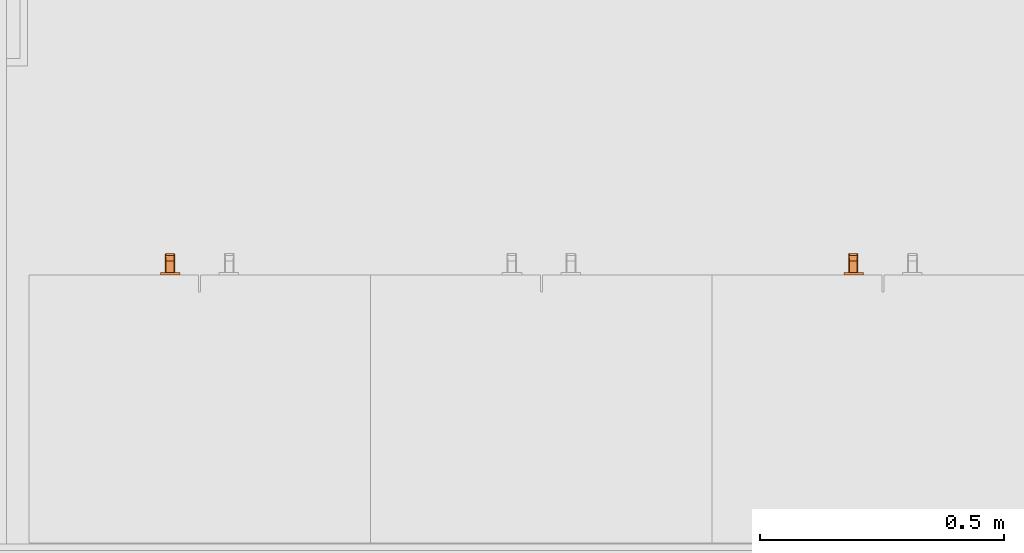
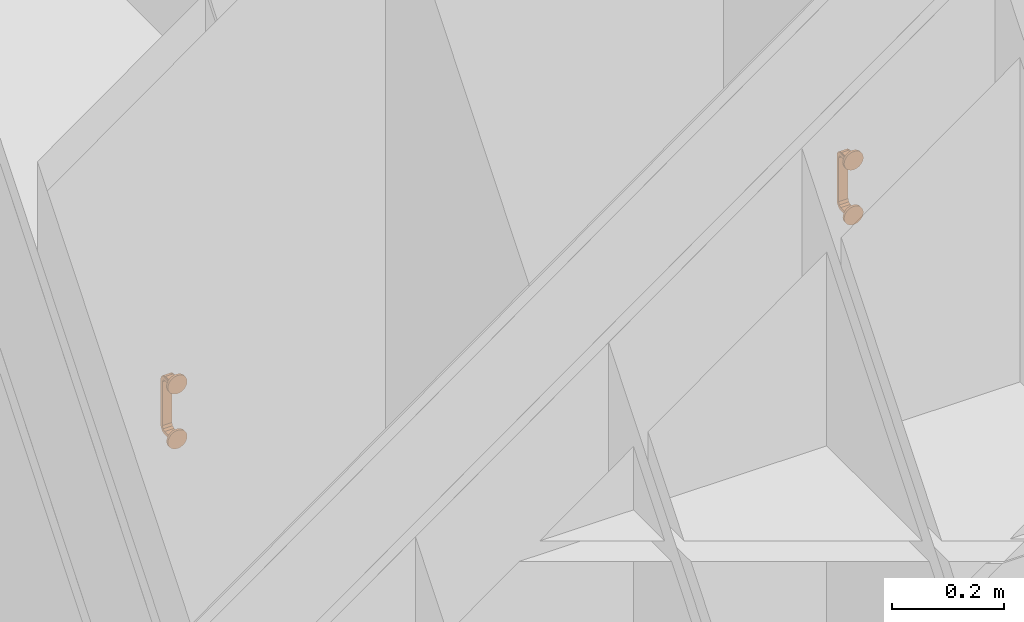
# One storey, part 40 of 67: 2 proxies.
"""IFC4 building model written with IfcOpenShell, lengths in millimetres."""

from ifc_helpers import new_model, entity, si_unit, converted_unit, direction, frame, origin, place, context, subcontext, project, spatial, polygons, source, transform, mapped, material, type_object, type_shapes, element, save


model = new_model("IFC4")

# Units and contexts
model_context = context("Model", 3, precision=0.01, world=origin(), true_north=direction((0.0, 1.0)))
body_context = subcontext(model_context, "Body", "Model", "MODEL_VIEW")
ifc_project = project(units=[si_unit("LENGTHUNIT", "METRE", prefix="MILLI"), si_unit("AREAUNIT", "SQUARE_METRE"), si_unit("VOLUMEUNIT", "CUBIC_METRE"), converted_unit("PLANEANGLEUNIT", "DEGREE", entity("IfcPlaneAngleMeasure", 0.017453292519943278), si_unit("PLANEANGLEUNIT", "RADIAN"), dimensions=[0, 0, 0, 0, 0, 0, 0])], contexts=[model_context])

# Site, building, storey, space
site_placement = place(None, origin())
site = spatial("IfcSite", under=ifc_project, at=site_placement, Name="Tomtens navn", CompositionType="ELEMENT")
building_placement = place(site_placement, origin())
building = spatial("IfcBuilding", under=site, at=building_placement, Name="Byggets navn", CompositionType="ELEMENT")
storey_placement = place(building_placement, origin())
storey = spatial("IfcBuildingStorey", under=building, at=storey_placement, Name="Level 01", CompositionType="ELEMENT", Elevation=2.1993652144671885e-25)
space_placement = place(storey_placement, origin())
space = spatial("IfcSpace", under=storey, at=space_placement, Name="102", CompositionType="ELEMENT", PredefinedType="NOTDEFINED")

# Proxies
ifc_material = material(Name="Handtag, vitt", Category="Unassigned")
building_element_proxy_type = type_object("IfcBuildingElementProxyType", Name="Handtag skåp1:Handtag skåp", PredefinedType="NOTDEFINED", material=ifc_material)
shared_shape = source(origin(), body_context, "Body", "Tessellation", [
    polygons([(8.670220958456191, -4.999999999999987, 4.021099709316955), (10.084434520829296, -4.9999999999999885, 3.435313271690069), (10.67022095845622, -4.999999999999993, 2.021099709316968), (10.67022095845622, -5.0000000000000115, -4.0210997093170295), (-9.32977904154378, -5.0000000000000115, -4.0210997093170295), (-9.32977904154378, -4.999999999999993, 2.021099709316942), (-8.743992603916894, -4.9999999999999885, 3.435313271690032), (-7.32977904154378, -4.999999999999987, 4.021099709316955), (8.670220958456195, -28.00000000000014, 4.0210997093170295), (10.084434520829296, -28.000000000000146, 3.435313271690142), (10.67022095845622, -28.00000000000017, 2.021099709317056), (8.670220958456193, -15.654960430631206, 4.02109970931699), (10.67022095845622, -17.34503987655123, 2.021099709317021), (10.08659387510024, -16.21238630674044, 3.433150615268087), (10.67022095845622, -37.914414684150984, -2.085585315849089), (10.67022095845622, -42.02109970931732, -11.999999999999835), (10.67022095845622, -42.02109970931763, -107.99999999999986), (10.67022095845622, -37.914414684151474, -117.91441468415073), (10.67022095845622, -28.00000000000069, -122.02109970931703), (10.67022095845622, -4.999999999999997, -122.02109970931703), (10.67022095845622, -4.999999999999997, -115.97890029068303), (10.67022095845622, -28.000000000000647, -115.97890029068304), (10.67022095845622, -33.641934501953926, -113.64193450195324), (10.67022095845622, -35.978900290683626, -107.99999999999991), (10.67022095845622, -35.978900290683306, -11.999999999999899), (10.67022095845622, -33.64193450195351, -6.358065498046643), (10.67022095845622, -28.000000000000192, -4.021099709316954), (-9.32977904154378, -28.000000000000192, -4.021099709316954), (-9.32977904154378, -33.64193450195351, -6.358065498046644), (-9.32977904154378, -35.97890029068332, -11.999999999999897), (-9.32977904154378, -35.97890029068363, -107.99999999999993), (-9.32977904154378, -33.641934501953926, -113.64193450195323), (-9.32977904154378, -28.000000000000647, -115.978900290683), (-9.32977904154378, -4.999999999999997, -115.978900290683), (-9.32977904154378, -4.999999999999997, -122.02109970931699), (-9.32977904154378, -28.00000000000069, -122.02109970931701), (-9.32977904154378, -37.91441468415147, -117.91441468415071), (-9.32977904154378, -42.0210997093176, -107.9999999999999), (-9.32977904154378, -42.02109970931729, -11.99999999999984), (-9.32977904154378, -37.91441468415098, -2.085585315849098), (-9.32977904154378, -28.000000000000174, 2.0210997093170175), (-8.743992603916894, -28.000000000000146, 3.435313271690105), (-7.329779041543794, -28.000000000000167, 4.0210997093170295), (-9.32977904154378, -15.654960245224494, 2.0210997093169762), (-7.3297790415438, -17.3450402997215, 4.021099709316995), (-8.741829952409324, -16.212386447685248, 3.4374726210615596), (8.670220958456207, -39.328628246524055, -0.6713717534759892), (8.670220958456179, -44.021099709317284, -11.999999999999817), (10.084434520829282, -43.43531327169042, -11.999999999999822), (10.67022095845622, -31.601265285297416, 0.5294067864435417), (8.670220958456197, -41.037713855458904, -4.797469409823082), (10.084434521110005, -40.40873190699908, -2.820007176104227), (8.670220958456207, -35.20253058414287, 1.0377138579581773), (9.809043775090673, -37.34144424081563, 0.5752165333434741), (9.818751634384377, -32.92350079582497, 2.8642465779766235), (10.67022095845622, -39.96775719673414, -7.042792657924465), (10.377327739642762, -28.000000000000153, 2.7282064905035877), (8.670220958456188, -42.529406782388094, -8.398734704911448), (9.779150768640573, -42.65191997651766, -6.400304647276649), (10.431420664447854, -34.75591670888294, 1.3575143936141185), (10.447049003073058, -37.641402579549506, -0.5884869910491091), (10.67022095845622, -34.7578399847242, -0.7780892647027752), (10.453824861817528, -31.5292743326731, 2.5026982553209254), (8.670220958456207, -31.601265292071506, 2.5294067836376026), (8.670220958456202, -40.18317105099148, -2.7344205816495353), (9.435587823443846, -40.00295364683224, -1.6197407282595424), (9.543801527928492, -41.59747716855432, -3.9137042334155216), (10.67022095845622, -38.941085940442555, -4.564188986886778), (10.502246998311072, -40.95405539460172, -4.794062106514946), (10.477567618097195, -42.45420227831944, -8.476170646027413), (9.193272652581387, -43.80444460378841, -11.999999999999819), (9.638611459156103, -43.53877057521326, -9.303396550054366), (10.67022095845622, -40.99442845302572, -9.521396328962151), (-7.329779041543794, -44.021099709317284, -11.999999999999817), (-7.329779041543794, -39.328628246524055, -0.6713717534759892), (-8.743992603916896, -43.43531327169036, -11.999999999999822), (-7.329779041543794, -35.20253057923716, 1.0377138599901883), (-8.743992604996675, -37.179992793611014, 0.40873192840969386), (-9.32977904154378, -40.52940677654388, -8.39873469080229), (-7.329779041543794, -41.03771385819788, -4.7974694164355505), (-8.468601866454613, -40.57521654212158, -2.658555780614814), (-8.478309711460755, -42.86424658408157, -7.076499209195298), (-9.32977904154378, -32.95720734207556, -0.03224280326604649), (-9.036885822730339, -42.72820649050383, -11.999999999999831), (-7.329779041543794, -31.601265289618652, 2.529406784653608), (-8.43870885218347, -33.59969531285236, 2.6519199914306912), (-9.090978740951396, -41.35751443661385, -5.244083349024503), (-9.106607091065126, -39.41151304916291, -2.3585974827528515), (-9.32977904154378, -39.221910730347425, -5.242160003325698), (-9.11338295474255, -42.50269824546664, -8.470725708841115), (-7.329779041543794, -42.52940678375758, -8.398734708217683), (-7.329779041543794, -37.26557941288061, 0.18317105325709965), (-8.095145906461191, -36.54048464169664, 1.37463273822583), (-8.182791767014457, -38.855367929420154, -0.47819170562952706), (-9.32977904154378, -35.43581101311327, -1.0589140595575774), (-7.852830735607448, -28.00000000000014, 3.8044446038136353), (-8.29816953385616, -30.69660343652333, 3.5387705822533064), (-9.060718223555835, -31.048754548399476, 2.7104148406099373), (-9.074370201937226, -34.340507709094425, 1.5930015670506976), (-9.32977904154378, -30.47860367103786, 0.9944284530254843), (-7.32977904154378, -33.664314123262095, 1.6748639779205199), (8.670220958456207, -33.664314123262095, 1.6748639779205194), (8.670220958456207, -30.748770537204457, 2.882521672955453), (-7.32977904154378, -41.67486397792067, -6.335685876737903), (8.670220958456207, -41.67486397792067, -6.335685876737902), (8.670220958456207, -40.50174611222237, -3.5035288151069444), (-7.32977904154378, -36.496471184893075, 0.5017461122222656), (8.670220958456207, -36.496471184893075, 0.5017461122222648), (-7.32977904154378, -30.83215706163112, 2.847981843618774), (8.670220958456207, -42.882521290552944, -9.251228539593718), (-7.32977904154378, -42.84798184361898, -9.167842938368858), (-7.32977904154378, -40.501746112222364, -3.5035288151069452), (8.670220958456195, -44.0210997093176, -107.99999999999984), (10.084434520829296, -43.435313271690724, -107.99999999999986), (10.67022095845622, -42.02109970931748, -61.38015936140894), (8.670220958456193, -44.021099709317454, -59.99999999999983), (8.670220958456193, -44.02109970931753, -83.30991987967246), (10.67022095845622, -42.02109970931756, -84.69007929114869), (8.670220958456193, -44.021099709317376, -36.69008012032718), (10.67022095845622, -42.02109970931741, -36.69007929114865), (10.67022095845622, -42.02109970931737, -24.34503925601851), (8.670220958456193, -44.021099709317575, -95.65495940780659), (8.670220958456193, -44.02109970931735, -24.345040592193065), (10.67022095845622, -42.021099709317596, -95.65495996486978), (10.084434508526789, -43.43531328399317, -90.1725199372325), (10.67022095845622, -42.021099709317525, -73.03511932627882), (10.043884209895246, -43.4747328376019, -67.20763959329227), (10.084434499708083, -43.435313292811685, -30.517560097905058), (10.084434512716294, -43.435313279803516, -43.7229280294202), (10.67022095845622, -42.021099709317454, -49.035119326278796), (10.049878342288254, -43.469044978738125, -55.462843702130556), (8.670220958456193, -44.02109970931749, -71.65495993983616), (10.188152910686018, -43.32336027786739, -78.66752152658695), (8.670220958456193, -44.02109970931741, -48.345040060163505), (-8.743992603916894, -43.43531327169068, -107.99999999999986), (-7.329779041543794, -44.0210997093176, -107.99999999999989), (-7.3297790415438, -44.02109970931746, -61.38015933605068), (-9.32977904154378, -42.021099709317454, -59.999999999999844), (-9.32977904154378, -42.02109970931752, -83.30992008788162), (-7.329779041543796, -44.02109970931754, -84.69007966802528), (-9.32977904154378, -42.02109970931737, -36.6900794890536), (-7.329779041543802, -44.021099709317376, -36.69007998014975), (-7.329779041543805, -44.02109970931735, -24.345039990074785), (-9.32977904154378, -42.02109970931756, -95.65495983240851), (-9.32977904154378, -42.02109970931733, -24.34503974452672), (-7.329779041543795, -44.021099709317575, -95.6549600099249), (-8.743992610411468, -43.43531326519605, -90.17252002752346), (-7.329779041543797, -44.0210997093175, -73.03511950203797), (-8.783412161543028, -43.39476296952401, -67.20763991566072), (-8.743992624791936, -43.43531325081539, -30.51756039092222), (-8.743992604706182, -43.43531327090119, -43.72292838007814), (-7.3297790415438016, -44.02109970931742, -49.03511997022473), (-8.777724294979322, -43.40075710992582, -55.462844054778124), (-9.32977904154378, -42.02109970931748, -71.65496025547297), (-8.632039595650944, -43.53903167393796, -78.66752173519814), (-9.32977904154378, -42.021099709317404, -48.34503974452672), (8.670220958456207, -39.32862824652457, -119.32862824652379), (8.670220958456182, -28.000000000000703, -124.02109970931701), (10.08443452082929, -28.0000000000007, -123.43531327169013), (10.67022095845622, -40.52940678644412, -111.60126528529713), (8.670220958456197, -35.202530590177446, -121.03771385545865), (10.084434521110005, -37.17999282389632, -120.40873190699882), (8.670220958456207, -41.03771385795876, -115.20253058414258), (9.809043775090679, -40.57521653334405, -117.34144424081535), (9.818751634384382, -42.864246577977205, -112.9235007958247), (10.67022095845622, -32.95720734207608, -119.96775719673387), (10.377327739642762, -42.728206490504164, -107.99999999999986), (8.67022095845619, -31.601265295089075, -122.52940678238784), (9.779150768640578, -33.59969535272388, -122.6519199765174), (10.431420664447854, -41.3575143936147, -114.75591670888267), (10.447049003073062, -39.41151300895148, -117.64140257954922), (10.67022095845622, -39.2219107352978, -114.75783998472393), (10.453824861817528, -42.50269825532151, -111.52927433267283), (8.670220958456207, -42.52940678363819, -111.60126529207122), (8.670220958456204, -37.26557941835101, -120.18317105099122), (9.435587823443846, -38.38025927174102, -120.00295364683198), (9.543801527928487, -36.08629576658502, -121.59747716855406), (10.67022095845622, -35.435811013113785, -118.9410859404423), (10.502246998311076, -35.205937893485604, -120.95405539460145), (10.477567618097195, -31.52382935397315, -122.45420227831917), (9.193272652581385, -28.0000000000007, -123.80444460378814), (9.638611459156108, -30.69660344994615, -123.538770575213), (10.67022095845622, -30.47860367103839, -120.99442845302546), (-7.329779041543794, -28.000000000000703, -124.02109970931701), (-7.329779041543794, -39.32862824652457, -119.32862824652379), (-8.743992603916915, -28.0000000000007, -123.43531327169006), (-7.329779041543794, -41.03771385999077, -115.20253057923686), (-8.743992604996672, -40.40873192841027, -117.17999279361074), (-9.32977904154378, -31.60126530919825, -120.52940677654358), (-7.329779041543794, -35.20253058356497, -121.03771385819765), (-8.468601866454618, -37.341444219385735, -120.57521654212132), (-8.478309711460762, -32.92350079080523, -122.8642465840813), (-9.32977904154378, -39.967757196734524, -112.9572073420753), (-9.036885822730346, -28.000000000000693, -122.72820649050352), (-7.329779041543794, -42.529406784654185, -111.60126528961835), (-8.438708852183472, -42.65191999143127, -113.59969531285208), (-9.090978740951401, -34.75591665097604, -121.35751443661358), (-9.106607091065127, -37.64140251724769, -119.41151304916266), (-9.32977904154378, -34.75783999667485, -119.22191073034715), (-9.113382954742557, -31.529274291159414, -122.50269824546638), (-7.329779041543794, -31.601265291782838, -122.52940678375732), (-7.329779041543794, -40.18317105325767, -117.26557941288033), (-8.095145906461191, -41.37463273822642, -116.54048464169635), (-8.182791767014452, -39.521808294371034, -118.8553679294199), (-9.32977904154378, -38.941085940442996, -115.435811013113), (-7.852830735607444, -43.804444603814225, -107.99999999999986), (-8.298169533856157, -43.53877058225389, -110.69660343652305), (-9.060718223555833, -42.710414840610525, -111.04875454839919), (-9.074370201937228, -41.59300156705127, -114.34050770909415), (-9.32977904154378, -40.99442845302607, -110.47860367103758), (-7.32977904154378, -41.6748639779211, -113.66431412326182), (8.670220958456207, -41.6748639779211, -113.66431412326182), (8.670220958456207, -42.88252167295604, -110.74877053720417), (-7.32977904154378, -33.66431412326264, -121.67486397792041), (8.670220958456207, -33.66431412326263, -121.67486397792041), (8.670220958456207, -36.4964711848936, -120.50174611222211), (-7.32977904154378, -40.50174611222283, -116.49647118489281), (8.670220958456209, -40.50174611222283, -116.49647118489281), (-7.32977904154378, -42.84798184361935, -110.83215706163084), (8.670220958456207, -30.748771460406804, -122.88252129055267), (-7.32977904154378, -30.832157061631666, -122.84798184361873), (-7.32977904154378, -36.49647118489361, -120.50174611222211), (8.670220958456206, -4.99999999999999, -124.02109970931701), (-7.329779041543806, -4.99999999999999, -124.021099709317), (-8.743992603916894, -4.99999999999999, -123.43531327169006), (10.084434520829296, -4.99999999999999, -123.43531327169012), (8.670220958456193, -17.345041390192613, -124.021099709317), (10.67022095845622, -15.654959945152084, -122.02109970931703), (10.086593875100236, -16.787613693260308, -123.43315061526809), (-9.32977904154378, -17.34504010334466, -122.02109970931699), (-7.3297790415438, -15.654959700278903, -124.021099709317), (-8.741829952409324, -16.787613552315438, -123.43747262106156)], [[[8, 1, 2, 3, 4, 5, 6, 7]], [[30, 25, 24, 31]], [[35, 34, 21, 20, 226, 223, 224, 225]], [[13, 10, 57, 11]], [[10, 13, 14]], [[14, 12, 9]], [[12, 2, 1]], [[14, 2, 12]], [[3, 14, 13]], [[3, 2, 14]], [[9, 10, 14]], [[4, 3, 13, 11, 50, 62, 15, 68, 56, 73, 16, 121, 120, 130, 115, 126, 118, 124, 17, 160, 172, 18, 178, 166, 183, 19, 228, 20, 21, 22, 23, 24, 25, 26, 27]], [[5, 4, 27, 28]], [[184, 231, 224, 223, 227, 158]], [[34, 35, 230, 36, 189, 199, 37, 205, 193, 210, 38, 144, 139, 154, 138, 156, 141, 145, 39, 79, 89, 40, 95, 83, 100, 41, 44, 6, 5, 28, 29, 30, 31, 32, 33]], [[45, 42, 96, 43]], [[42, 45, 46]], [[46, 44, 41]], [[44, 7, 6]], [[46, 7, 44]], [[8, 46, 45]], [[8, 7, 46]], [[41, 42, 46]], [[1, 8, 45, 43, 9, 12]], [[33, 22, 21, 34]], [[61, 62, 60]], [[69, 56, 68]], [[47, 65, 66]], [[53, 54, 55]], [[59, 51, 105, 58]], [[67, 65, 106, 51]], [[70, 56, 69]], [[63, 60, 50]], [[10, 64, 55]], [[52, 67, 59]], [[54, 53, 108, 47]], [[58, 71, 72]], [[60, 55, 54]], [[68, 61, 69]], [[67, 52, 66]], [[15, 61, 68]], [[63, 10, 55]], [[11, 57, 10, 63]], [[71, 58, 110, 48]], [[49, 16, 70]], [[61, 60, 54]], [[50, 11, 63]], [[52, 61, 54]], [[62, 61, 15]], [[62, 50, 60]], [[55, 60, 63]], [[10, 9, 103, 64]], [[55, 64, 102, 53]], [[52, 54, 66]], [[54, 47, 66]], [[65, 67, 66]], [[51, 59, 67]], [[61, 52, 69]], [[52, 59, 69]], [[70, 69, 59]], [[59, 72, 70]], [[70, 16, 73, 56]], [[72, 71, 49]], [[70, 72, 49]], [[58, 72, 59]], [[26, 29, 28, 27]], [[25, 30, 29, 26]], [[96, 85, 109, 43]], [[90, 87, 79]], [[86, 77, 101, 85]], [[98, 99, 86]], [[93, 92, 107, 77]], [[87, 82, 81]], [[81, 82, 80]], [[99, 95, 78]], [[88, 89, 87]], [[86, 99, 78]], [[78, 94, 93]], [[76, 91, 82]], [[81, 80, 112, 75]], [[92, 93, 94]], [[94, 78, 88]], [[40, 88, 95]], [[90, 76, 82]], [[39, 84, 76, 90]], [[98, 97, 42]], [[97, 98, 86]], [[88, 87, 81]], [[79, 39, 90]], [[88, 81, 94]], [[89, 88, 40]], [[89, 79, 87]], [[82, 87, 90]], [[76, 74, 111, 91]], [[82, 91, 104, 80]], [[77, 86, 93]], [[86, 78, 93]], [[81, 75, 94]], [[92, 94, 75]], [[95, 88, 78]], [[97, 96, 42]], [[85, 96, 97]], [[85, 97, 86]], [[42, 41, 98]], [[100, 83, 95, 99]], [[99, 98, 100]], [[98, 41, 100]], [[103, 9, 43, 109, 85, 101, 77, 107, 92, 75, 47, 108, 53, 102, 64]], [[105, 51, 106, 65, 47, 75, 112, 80, 104, 91, 111, 74, 48, 110, 58]], [[121, 16, 49, 128, 129, 130, 120]], [[118, 125, 114, 167, 17, 124]], [[126, 133, 118]], [[126, 115, 127]], [[123, 119, 134, 129, 128, 49, 71, 48]], [[125, 117, 122, 113, 114]], [[131, 130, 129]], [[130, 131, 115]], [[126, 127, 133]], [[127, 116, 132]], [[133, 117, 125]], [[131, 134, 116]], [[131, 116, 127]], [[115, 131, 127]], [[131, 129, 134]], [[133, 127, 132]], [[133, 132, 117]], [[118, 133, 125]], [[143, 74, 76, 150, 151, 152, 142]], [[140, 147, 135, 206, 136, 146]], [[148, 155, 140]], [[148, 137, 149]], [[145, 141, 156, 151, 150, 76, 84, 39]], [[147, 139, 144, 38, 135]], [[153, 152, 151]], [[152, 153, 137]], [[148, 149, 155]], [[149, 138, 154]], [[155, 139, 147]], [[153, 156, 138]], [[153, 138, 149]], [[137, 153, 149]], [[153, 151, 156]], [[155, 149, 154]], [[155, 154, 139]], [[140, 155, 147]], [[48, 74, 143, 142, 152, 137, 148, 140, 146, 136, 113, 122, 117, 132, 116, 134, 119, 123]], [[171, 172, 170]], [[179, 166, 178]], [[157, 176, 164]], [[163, 164, 165]], [[169, 161, 215, 168]], [[176, 157, 175]], [[180, 166, 179]], [[173, 170, 160]], [[114, 174, 165]], [[162, 177, 169]], [[164, 163, 218, 157]], [[168, 181, 182]], [[170, 165, 164]], [[178, 171, 179]], [[177, 162, 176]], [[18, 171, 178]], [[173, 114, 165]], [[17, 167, 114, 173]], [[181, 168, 220, 158]], [[159, 19, 180]], [[171, 170, 164]], [[160, 17, 173]], [[162, 171, 164]], [[172, 171, 18]], [[172, 160, 170]], [[165, 170, 173]], [[114, 113, 213, 174]], [[165, 174, 212, 163]], [[177, 175, 216, 161]], [[164, 176, 162]], [[175, 177, 176]], [[161, 169, 177]], [[171, 162, 179]], [[162, 169, 179]], [[180, 179, 169]], [[169, 182, 180]], [[180, 19, 183, 166]], [[182, 181, 159]], [[180, 182, 159]], [[168, 182, 169]], [[23, 32, 31, 24]], [[22, 33, 32, 23]], [[206, 195, 219, 136]], [[200, 197, 189]], [[196, 187, 211, 195]], [[208, 209, 196]], [[203, 202, 217, 187]], [[197, 192, 191]], [[191, 192, 190]], [[209, 205, 188]], [[198, 199, 197]], [[196, 209, 188]], [[188, 204, 203]], [[186, 201, 192]], [[191, 190, 222, 185]], [[202, 203, 204]], [[203, 196, 188]], [[37, 198, 205]], [[200, 186, 192]], [[36, 194, 186, 200]], [[208, 207, 135]], [[207, 208, 196]], [[198, 197, 191]], [[189, 36, 200]], [[198, 191, 204]], [[199, 198, 37]], [[199, 189, 197]], [[192, 197, 200]], [[186, 184, 221, 201]], [[192, 201, 214, 190]], [[196, 203, 187]], [[198, 204, 188]], [[191, 185, 204]], [[202, 204, 185]], [[205, 198, 188]], [[207, 206, 135]], [[195, 206, 207]], [[195, 207, 196]], [[135, 38, 208]], [[210, 193, 205, 209]], [[209, 208, 210]], [[208, 38, 210]], [[213, 113, 136, 219, 195, 211, 187, 217, 202, 185, 157, 218, 163, 212, 174]], [[215, 161, 216, 175, 157, 185, 222, 190, 214, 201, 221, 184, 158, 220, 168]], [[228, 226, 20]], [[226, 228, 229]], [[229, 227, 223]], [[227, 159, 181, 158]], [[229, 159, 227]], [[19, 229, 228]], [[19, 159, 229]], [[223, 226, 229]], [[231, 225, 224]], [[225, 231, 232]], [[232, 230, 35]], [[230, 186, 194, 36]], [[232, 186, 230]], [[184, 232, 231]], [[184, 186, 232]], [[35, 225, 232]]], closed=True),
    polygons([(-20.00000000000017, -4.999999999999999, 1.386238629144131e-14), (-19.318516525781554, -4.999999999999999, -5.176380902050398), (-17.320508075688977, -4.999999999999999, -9.999999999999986), (-14.14213562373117, -4.999999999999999, -14.142135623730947), (-10.000000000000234, -4.999999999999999, -17.320508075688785), (-5.176380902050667, -4.999999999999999, -19.318516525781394), (-2.580269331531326e-13, -4.999999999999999, -20.00000000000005), (5.176380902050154, -4.999999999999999, -19.31851652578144), (9.999999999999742, -4.999999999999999, -17.320508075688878), (14.142135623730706, -4.999999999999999, -14.142135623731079), (17.320508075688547, -4.999999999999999, -10.000000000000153), (19.318516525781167, -4.999999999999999, -5.176380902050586), (19.999999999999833, -4.999999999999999, -5.075939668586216e-14), (19.3185165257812, -4.999999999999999, 5.17638090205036), (17.32050807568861, -4.999999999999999, 9.999999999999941), (14.142135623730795, -4.999999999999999, 14.142135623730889), (9.99999999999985, -4.999999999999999, 17.32050807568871), (5.176380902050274, -4.999999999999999, 19.31851652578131), (-1.3958834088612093e-13, -4.999999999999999, 19.99999999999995), (-5.176380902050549, -4.999999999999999, 19.318516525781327), (-10.000000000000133, -4.999999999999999, 17.320508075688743), (-14.142135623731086, -4.999999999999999, 14.142135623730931), (-17.320508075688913, -4.999999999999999, 9.999999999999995), (-19.318516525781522, -4.999999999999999, 5.176380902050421), (-20.00000000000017, 0.0, 4.9806020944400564e-15), (-19.318516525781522, 0.0, 5.176380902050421), (-17.320508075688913, 0.0, 9.999999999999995), (-14.142135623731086, 0.0, 14.142135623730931), (-10.000000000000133, 0.0, 17.320508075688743), (-5.176380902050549, 0.0, 19.318516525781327), (-1.3958834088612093e-13, 0.0, 19.99999999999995), (5.176380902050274, 0.0, 19.31851652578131), (9.99999999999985, 0.0, 17.32050807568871), (14.142135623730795, 0.0, 14.142135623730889), (17.32050807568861, 0.0, 9.999999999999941), (19.3185165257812, 0.0, 5.17638090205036), (19.999999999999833, 0.0, -1.622393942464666e-13), (19.318516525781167, 0.0, -5.176380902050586), (17.320508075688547, 0.0, -10.000000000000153), (14.142135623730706, 0.0, -14.142135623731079), (9.999999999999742, 0.0, -17.320508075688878), (5.176380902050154, 0.0, -19.31851652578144), (-2.580269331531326e-13, 0.0, -20.00000000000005), (-5.176380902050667, 0.0, -19.318516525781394), (-10.000000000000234, 0.0, -17.320508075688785), (-14.14213562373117, 0.0, -14.142135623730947), (-17.320508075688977, 0.0, -9.999999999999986), (-19.318516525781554, 0.0, -5.176380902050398)], [[[8, 9, 10, 11, 12, 13, 14, 15, 16, 17, 18, 19, 20, 21, 22, 23, 24, 1, 2, 3, 4, 5, 6, 7]], [[31, 32, 33, 34, 35, 36, 37, 38, 39, 40, 41, 42, 43, 44, 45, 46, 47, 48, 25, 26, 27, 28, 29, 30]], [[48, 2, 1, 25]], [[47, 3, 2, 48]], [[5, 4, 46, 45]], [[47, 46, 4, 3]], [[6, 5, 45, 44]], [[7, 6, 44, 43]], [[42, 8, 7, 43]], [[41, 9, 8, 42]], [[11, 10, 40, 39]], [[41, 40, 10, 9]], [[12, 11, 39, 38]], [[13, 12, 38, 37]], [[36, 14, 13, 37]], [[35, 15, 14, 36]], [[17, 16, 34, 33]], [[35, 34, 16, 15]], [[18, 17, 33, 32]], [[19, 18, 32, 31]], [[30, 20, 19, 31]], [[29, 21, 20, 30]], [[23, 22, 28, 27]], [[29, 28, 22, 21]], [[24, 23, 27, 26]], [[1, 24, 26, 25]]], closed=True),
    polygons([(-20.000000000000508, -4.999999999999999, -120.0), (-19.31851652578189, -4.999999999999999, -125.17638090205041), (-17.32050807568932, -4.999999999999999, -130.0), (-14.142135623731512, -4.999999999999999, -134.14213562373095), (-10.000000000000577, -4.999999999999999, -137.3205080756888), (-5.176380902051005, -4.999999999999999, -139.3185165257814), (-6.006528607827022e-13, -4.999999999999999, -140.00000000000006), (5.176380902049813, -4.999999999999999, -139.31851652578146), (9.999999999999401, -4.999999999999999, -137.3205080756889), (14.142135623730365, -4.999999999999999, -134.1421356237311), (17.320508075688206, -4.999999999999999, -130.00000000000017), (19.318516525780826, -4.999999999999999, -125.1763809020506), (19.999999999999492, -4.999999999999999, -120.00000000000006), (19.31851652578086, -4.999999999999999, -114.82361909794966), (17.32050807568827, -4.999999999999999, -110.00000000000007), (14.142135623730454, -4.999999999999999, -105.85786437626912), (9.99999999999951, -4.999999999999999, -102.6794919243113), (5.176380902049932, -4.999999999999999, -100.6814834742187), (-4.779843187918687e-13, -4.999999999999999, -100.00000000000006), (-5.176380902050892, -4.999999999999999, -100.68148347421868), (-10.000000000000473, -4.999999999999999, -102.67949192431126), (-14.142135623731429, -4.999999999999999, -105.85786437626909), (-17.320508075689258, -4.999999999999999, -110.00000000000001), (-19.31851652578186, -4.999999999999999, -114.82361909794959), (-20.000000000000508, 0.0, -120.00000000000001), (-19.31851652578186, 0.0, -114.82361909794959), (-17.320508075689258, 0.0, -110.00000000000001), (-14.142135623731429, 0.0, -105.85786437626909), (-10.000000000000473, 0.0, -102.67949192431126), (-5.176380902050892, 0.0, -100.68148347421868), (-4.779843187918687e-13, 0.0, -100.00000000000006), (5.176380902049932, 0.0, -100.6814834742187), (9.99999999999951, 0.0, -102.6794919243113), (14.142135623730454, 0.0, -105.85786437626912), (17.32050807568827, 0.0, -110.00000000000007), (19.31851652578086, 0.0, -114.82361909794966), (19.999999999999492, 0.0, -120.00000000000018), (19.318516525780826, 0.0, -125.1763809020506), (17.320508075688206, 0.0, -130.00000000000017), (14.142135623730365, 0.0, -134.1421356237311), (9.999999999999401, 0.0, -137.3205080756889), (5.176380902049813, 0.0, -139.31851652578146), (-6.006528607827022e-13, 0.0, -140.00000000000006), (-5.176380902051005, 0.0, -139.3185165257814), (-10.000000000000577, 0.0, -137.3205080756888), (-14.142135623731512, 0.0, -134.14213562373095), (-17.32050807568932, 0.0, -130.0), (-19.31851652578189, 0.0, -125.17638090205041)], [[[7, 8, 9, 10, 11, 12, 13, 14, 15, 16, 17, 18, 19, 20, 21, 22, 23, 24, 1, 2, 3, 4, 5, 6]], [[31, 32, 33, 34, 35, 36, 37, 38, 39, 40, 41, 42, 43, 44, 45, 46, 47, 48, 25, 26, 27, 28, 29, 30]], [[48, 2, 1, 25]], [[47, 3, 2, 48]], [[5, 4, 46, 45]], [[47, 46, 4, 3]], [[6, 5, 45, 44]], [[7, 6, 44, 43]], [[42, 8, 7, 43]], [[41, 9, 8, 42]], [[11, 10, 40, 39]], [[41, 40, 10, 9]], [[12, 11, 39, 38]], [[13, 12, 38, 37]], [[36, 14, 13, 37]], [[35, 15, 14, 36]], [[17, 16, 34, 33]], [[35, 34, 16, 15]], [[18, 17, 33, 32]], [[19, 18, 32, 31]], [[30, 20, 19, 31]], [[29, 21, 20, 30]], [[23, 22, 28, 27]], [[29, 28, 22, 21]], [[24, 23, 27, 26]], [[1, 24, 26, 25]]], closed=True),
])
type_shapes(building_element_proxy_type, [shared_shape])
for number, where, z_axis, x_axis, name in (
    (1, (65351.853528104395, 18543.466456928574, 1120.0), (0.0, 0.0, 1.0), (-1.0, 0.0, 0.0), "Handtag skåp1:Handtag skåp"),
    (2, (63951.8535281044, 18543.466456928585, 1120.0), (0.0, 0.0, 1.0), (-1.0, 0.0, 0.0), "Handtag skåp1:Handtag skåp"),
):
    element("IfcBuildingElementProxy", number, at=place(space_placement, frame(where, z_axis=z_axis, x_axis=x_axis)), inside=space, type_object=building_element_proxy_type, material=ifc_material, Name=name, PredefinedType="NOTDEFINED", context=body_context, shape_type="MappedRepresentation", body=[
        mapped(shared_shape, transform((0.0, 0.0, 0.0), scale=1.0)),
    ])

save(model, "model.ifc")
